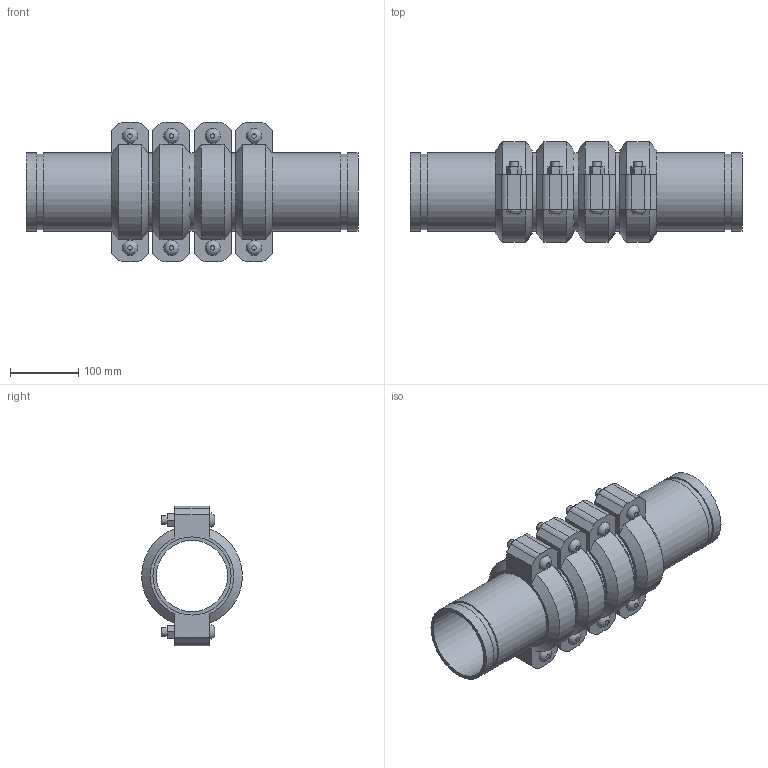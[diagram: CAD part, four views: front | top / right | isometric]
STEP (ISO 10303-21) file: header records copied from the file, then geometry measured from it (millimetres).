
FILE_DESCRIPTION(/* description */ ('VIC SS EXPANSION JOINT 4 COUPLINGS COMPRESSED STYLE 155P (OGS) (POTABLE WATER) ','CAx-IF Rec.Pracs.---Representation and Presentation of Product Manufacturing Information (PMI)---4.0---2014-10-13'),/* implementation_level */ '2;1');
FILE_NAME(/* name */ 'C:\Users\kkamble\AppData\Roaming\Autodesk\ApplicationPlugins\Victaulic.Temp\A932\Victaulic_SS_Expansion Joint_Compressed_4 Couplings_Style 155P (OGS)-Potable Water_4 Coup_Comp_4 (100).stp',/* time_stamp */ '2021-07-16T17:12:08+06:00',/* author */ ('kkamble'),/* organization */ ('Victaulic'),/* preprocessor_version */ 'ST-DEVELOPER v17.2',/* originating_system */ 'Autodesk Inventor 2019',/* authorisation */ '');
FILE_SCHEMA (('AP242_MANAGED_MODEL_BASED_3D_ENGINEERING_MIM_LF { 1 0 10303 442 1 1 4 }'));
Length unit declared in the file: inch
Products named in the file (4): 155P-04.0; Nipple-04.0; Nipple-04.0_1; 075-04.0
Assembly tree (9 placements, depth 2):
  155P-04.0
    Nipple-04.0  x2
    Nipple-04.0_1  x3
    075-04.0  x4
Bounding box: 485.39 x 147.32 x 203.96 mm (x, y, z)
Volume: 2706251.4 mm3; surface area: 667441.9 mm2
Topology: 9 solids, 17 shells, 272 faces, 658 edges, 464 vertices
Faces by surface type: plane 166, cylinder 82, cone 16, bspline 8
Full cylindrical faces by diameter (mm): 12.7 x16, 14.605 x8, 103.988 x5, 110.084 x10, 114.3 x19
Entity records: 2673 total; most frequent: CARTESIAN_POINT 479, DIRECTION 443, ORIENTED_EDGE 374, EDGE_CURVE 187, AXIS2_PLACEMENT_3D 176, VERTEX_POINT 134, EDGE_LOOP 101, LINE 91
